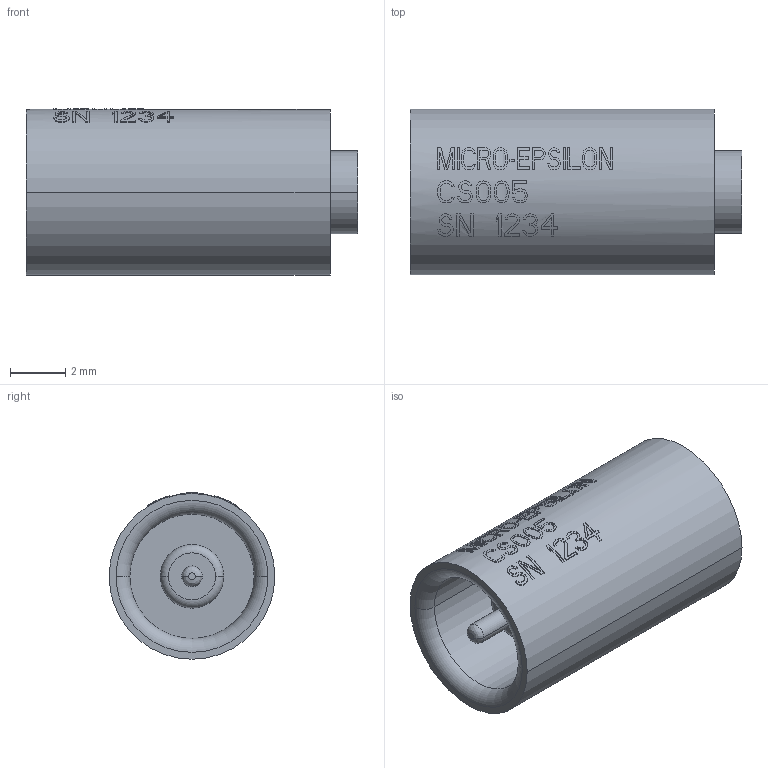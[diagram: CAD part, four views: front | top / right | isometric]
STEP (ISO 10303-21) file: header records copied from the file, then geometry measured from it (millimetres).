
FILE_DESCRIPTION((''),'2;1');
FILE_NAME('CS005','2009-08-21T',('11000065'),(''),'PRO/ENGINEER BY PARAMETRIC TECHNOLOGY CORPORATION, 2008490','PRO/ENGINEER BY PARAMETRIC TECHNOLOGY CORPORATION, 2008490','');
FILE_SCHEMA(('AUTOMOTIVE_DESIGN { 1 2 10303 214 0 1 1 1 }'));
Length unit declared in the file: millimetre
Products named in the file (1): CS005
Bounding box: 12 x 6 x 6.03 mm (x, y, z)
Volume: 262 mm3; surface area: 347.2 mm2
Topology: 1 solids, 1 shells, 746 faces, 2105 edges, 1400 vertices
Faces by surface type: plane 687, cylinder 51, torus 4, cone 2, bspline 2
Entity records: 30568 total; most frequent: CARTESIAN_POINT 6217, ORIENTED_EDGE 4210, DIRECTION 2883, PRESENTATION_STYLE_ASSIGNMENT 2133, STYLED_ITEM 2108, CURVE_STYLE 2105, EDGE_CURVE 2105, VERTEX_POINT 1400
